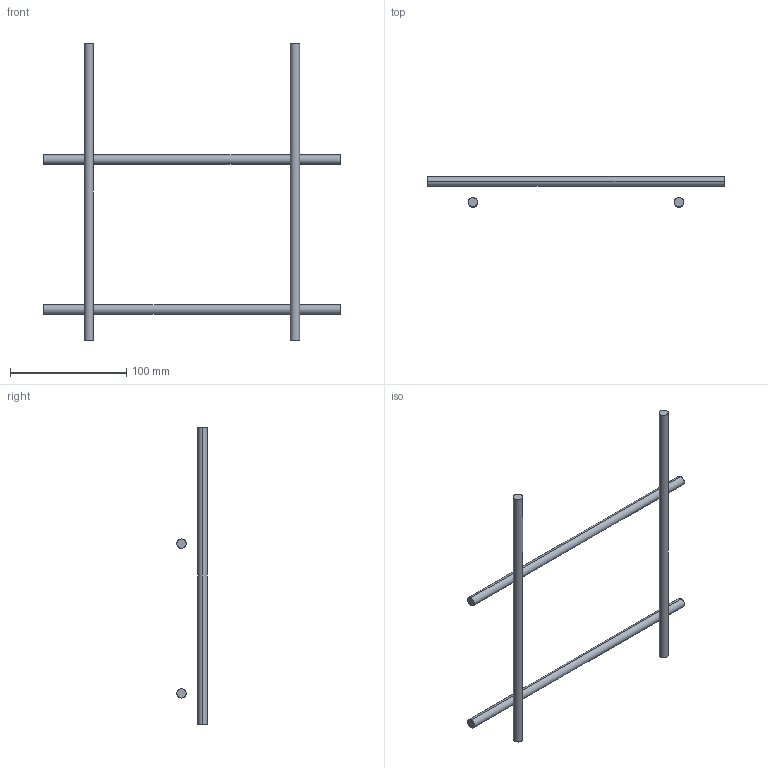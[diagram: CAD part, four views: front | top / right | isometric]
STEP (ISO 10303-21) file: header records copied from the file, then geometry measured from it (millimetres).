
FILE_DESCRIPTION(/* description */ (''),/* implementation_level */ '2;1');
FILE_NAME(/* name */ '240803-DIYUTM-8mmATR',/* time_stamp */ '2024-08-03T10:08:10+02:00',/* author */ (''),/* organization */ (''),/* preprocessor_version */ 'ST-DEVELOPER v16.5',/* originating_system */ 'Rhino 7.37',/* authorisation */ '');
FILE_SCHEMA (('CONFIG_CONTROL_DESIGN'));
Length unit declared in the file: millimetre
Products named in the file (1): Document
Bounding box: 255.21 x 26.09 x 255 mm (x, y, z)
Volume: 51268.5 mm3; surface area: 26037.5 mm2
Topology: 4 solids, 4 shells, 16 faces, 24 edges, 16 vertices
Faces by surface type: cylinder 8, plane 8
Entity records: 412 total; most frequent: CARTESIAN_POINT 130, ORIENTED_EDGE 48, EDGE_CURVE 24, DIRECTION 20, AXIS2_PLACEMENT_3D 18, ADVANCED_FACE 16, FACE_OUTER_BOUND 16, EDGE_LOOP 16
